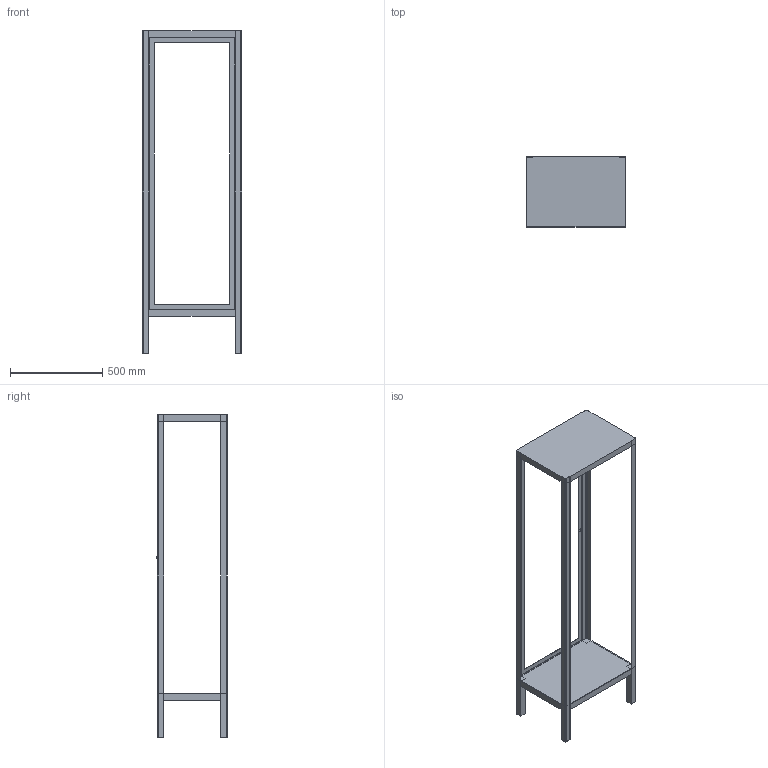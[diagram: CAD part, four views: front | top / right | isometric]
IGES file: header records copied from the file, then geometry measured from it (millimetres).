
Start section: Comment
Global section: file name: GB175.igs; native system:  By UGS Corp.; preprocessor: XPlus GENERIC/IGES 3.0; author: Author; organization: Title; date: 20191107.162600; units: inch
Bounding box: 540 x 382 x 1750 mm (x, y, z)
Surface area: 2280325 mm2 (no closed solid volume)
Topology: 0 solids, 0 shells, 114 faces, 590 edges, 590 vertices
Faces by surface type: bspline 114
